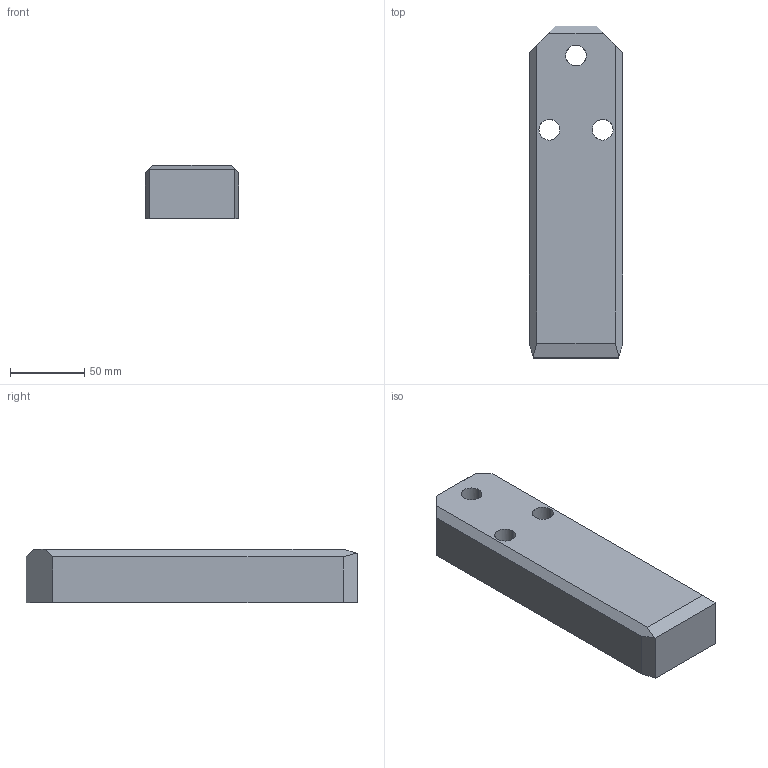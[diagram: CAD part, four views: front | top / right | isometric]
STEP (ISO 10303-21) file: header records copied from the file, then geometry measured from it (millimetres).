
FILE_DESCRIPTION(('CATIA V5 STEP Exchange'),'2;1');
FILE_NAME('C:\Users\borellobunino\Desktop\3D X SITO CF\A927\GSB_OILLESS_G2290506322436\STEP-2.03\A927-63X224X36.stp','2019-07-14T19:41:31+00:00',('none'),('none'),'CATIA Version 5 Release 20 GA (IN-10)','CATIA V5 STEP AP203','none');
FILE_SCHEMA(('CONFIG_CONTROL_DESIGN'));
Length unit declared in the file: millimetre
Products named in the file (1): A927-63X224X36
Bounding box: 63 x 224 x 36 mm (x, y, z)
Volume: 464490.6 mm3; surface area: 50317 mm2
Topology: 1 solids, 1 shells, 35 faces, 84 edges, 54 vertices
Faces by surface type: plane 17, cylinder 12, cone 6
Entity records: 1296 total; most frequent: CARTESIAN_POINT 450, ORIENTED_EDGE 168, DIRECTION 142, EDGE_CURVE 84, AXIS2_PLACEMENT_3D 54, VECTOR 54, LINE 54, VERTEX_POINT 54
